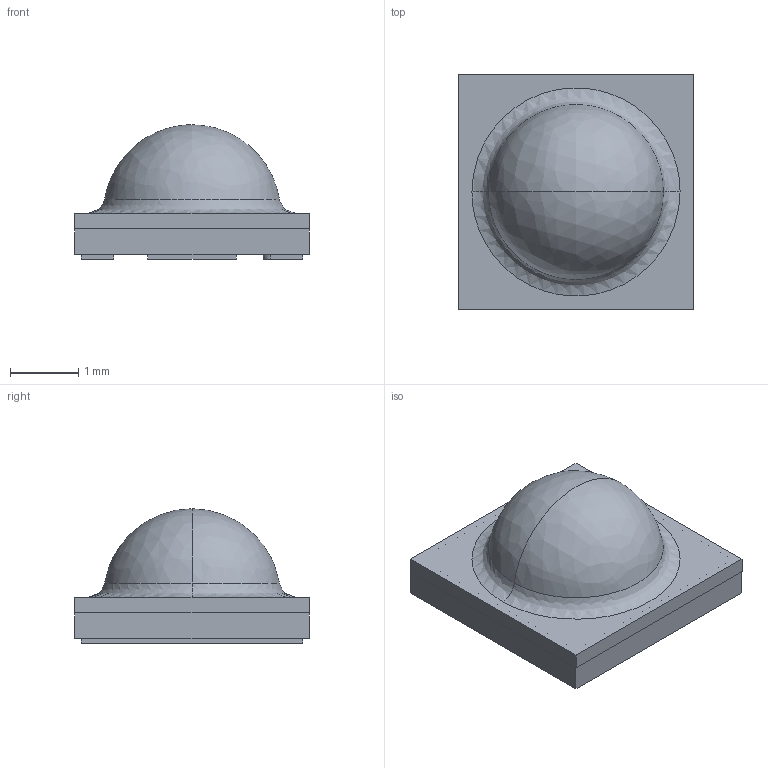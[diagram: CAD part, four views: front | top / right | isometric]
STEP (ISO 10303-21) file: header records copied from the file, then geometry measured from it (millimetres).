
FILE_DESCRIPTION(/* description */ (''),/* implementation_level */ '2;1');
FILE_NAME(/* name */ 'STEE581',/* time_stamp */ '2025-01-17T09:59:38+08:00',/* author */ (''),/* organization */ (''),/* preprocessor_version */ 'ST-DEVELOPER v16.5',/* originating_system */ '',/* authorisation */ '');
FILE_SCHEMA (('CONFIG_CONTROL_DESIGN'));
Length unit declared in the file: millimetre
Products named in the file (1): Document
Bounding box: 3.45 x 3.45 x 1.98 mm (x, y, z)
Volume: 14.7 mm3; surface area: 120.8 mm2
Topology: 15 solids, 15 shells, 383 faces, 947 edges, 615 vertices
Faces by surface type: plane 199, cylinder 131, bspline 53
Entity records: 14431 total; most frequent: CARTESIAN_POINT 7548, ORIENTED_EDGE 1894, EDGE_CURVE 947, VERTEX_POINT 615, B_SPLINE_CURVE_WITH_KNOTS 589, EDGE_LOOP 408, ADVANCED_FACE 383, FACE_OUTER_BOUND 383
